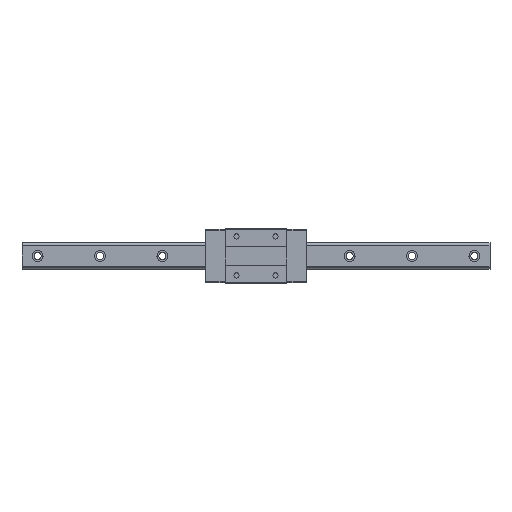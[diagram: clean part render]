
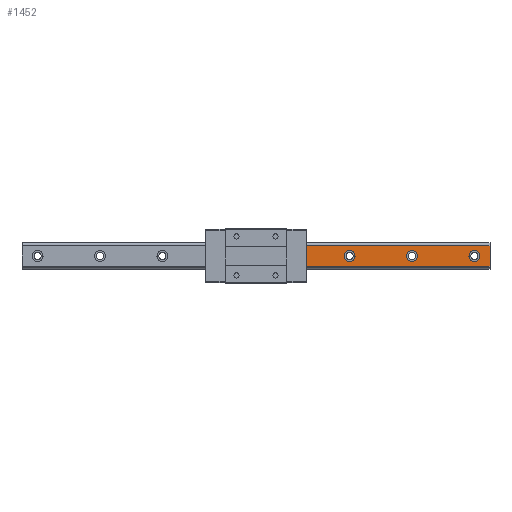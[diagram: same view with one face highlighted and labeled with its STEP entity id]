
A CAD part, top view. The second image highlights one B-rep face of the part: STEP entity #1452.
In plain terms, the highlighted planar face has unit normal (0, 0, 1).
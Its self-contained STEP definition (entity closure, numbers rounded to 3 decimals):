
#29 = CARTESIAN_POINT ( 'NONE',  ( 300., 13.6, 26. ) ) ;
#66 = VERTEX_POINT ( 'NONE', #2075 ) ;
#96 = LINE ( 'NONE', #1850, #302 ) ;
#133 = AXIS2_PLACEMENT_3D ( 'NONE', #1473, #4798, #3149 ) ;
#302 = VECTOR ( 'NONE', #3903, 1000. ) ;
#367 = DIRECTION ( 'NONE',  ( -1., 0., 0. ) ) ;
#369 = CIRCLE ( 'NONE', #3812, 7. ) ;
#420 = DIRECTION ( 'NONE',  ( -1., 0., 0. ) ) ;
#459 = DIRECTION ( 'NONE',  ( 0., 0., -1. ) ) ;
#477 = DIRECTION ( 'NONE',  ( 0., 0., -1. ) ) ;
#585 = CARTESIAN_POINT ( 'NONE',  ( 64.75, -13.408, 26. ) ) ;
#658 = VECTOR ( 'NONE', #1546, 1000. ) ;
#695 = ORIENTED_EDGE ( 'NONE', *, *, #3386, .F. ) ;
#767 = VERTEX_POINT ( 'NONE', #5246 ) ;
#770 = LINE ( 'NONE', #4062, #1510 ) ;
#784 = AXIS2_PLACEMENT_3D ( 'NONE', #3497, #4334, #3066 ) ;
#844 = ORIENTED_EDGE ( 'NONE', *, *, #1554, .F. ) ;
#893 = DIRECTION ( 'NONE',  ( 0., -1., 0. ) ) ;
#903 = VERTEX_POINT ( 'NONE', #2809 ) ;
#1110 = EDGE_CURVE ( 'NONE', #903, #5324, #2802, .T. ) ;
#1184 = EDGE_CURVE ( 'NONE', #2336, #1925, #770, .T. ) ;
#1452 = ADVANCED_FACE ( 'NONE', ( #3417, #4202, #2529, #4179 ), #3771, .F. ) ;
#1473 = CARTESIAN_POINT ( 'NONE',  ( 280., 0., 26. ) ) ;
#1510 = VECTOR ( 'NONE', #367, 1000. ) ;
#1536 = VERTEX_POINT ( 'NONE', #1980 ) ;
#1546 = DIRECTION ( 'NONE',  ( 0., 1., 0. ) ) ;
#1548 = CIRCLE ( 'NONE', #3619, 7. ) ;
#1551 = VERTEX_POINT ( 'NONE', #4385 ) ;
#1554 = EDGE_CURVE ( 'NONE', #3022, #1925, #2358, .T. ) ;
#1820 = ORIENTED_EDGE ( 'NONE', *, *, #3470, .T. ) ;
#1850 = CARTESIAN_POINT ( 'NONE',  ( 300., -13.408, 26. ) ) ;
#1925 = VERTEX_POINT ( 'NONE', #3240 ) ;
#1980 = CARTESIAN_POINT ( 'NONE',  ( 113., 0., 26. ) ) ;
#2006 = ORIENTED_EDGE ( 'NONE', *, *, #3122, .T. ) ;
#2075 = CARTESIAN_POINT ( 'NONE',  ( 207., 0., 26. ) ) ;
#2079 = CARTESIAN_POINT ( 'NONE',  ( 280., 0., 26. ) ) ;
#2087 = EDGE_CURVE ( 'NONE', #5324, #903, #369, .T. ) ;
#2128 = DIRECTION ( 'NONE',  ( 0., -1., 0. ) ) ;
#2271 = CARTESIAN_POINT ( 'NONE',  ( 120., 0., 26. ) ) ;
#2336 = VERTEX_POINT ( 'NONE', #4832 ) ;
#2358 = LINE ( 'NONE', #2838, #658 ) ;
#2474 = CARTESIAN_POINT ( 'NONE',  ( 200., 0., 26. ) ) ;
#2529 = FACE_BOUND ( 'NONE', #2983, .T. ) ;
#2676 = DIRECTION ( 'NONE',  ( -1., 0., 0. ) ) ;
#2802 = CIRCLE ( 'NONE', #133, 7. ) ;
#2809 = CARTESIAN_POINT ( 'NONE',  ( 287., 0., 26. ) ) ;
#2838 = CARTESIAN_POINT ( 'NONE',  ( 64.75, -13.408, 26. ) ) ;
#2924 = VECTOR ( 'NONE', #893, 1000. ) ;
#2967 = LINE ( 'NONE', #29, #2924 ) ;
#2983 = EDGE_LOOP ( 'NONE', ( #1820, #4307 ) ) ;
#3010 = CIRCLE ( 'NONE', #784, 7. ) ;
#3022 = VERTEX_POINT ( 'NONE', #585 ) ;
#3066 = DIRECTION ( 'NONE',  ( -1., 0., 0. ) ) ;
#3122 = EDGE_CURVE ( 'NONE', #767, #66, #3010, .T. ) ;
#3149 = DIRECTION ( 'NONE',  ( -1., 0., 0. ) ) ;
#3222 = ORIENTED_EDGE ( 'NONE', *, *, #4252, .T. ) ;
#3240 = CARTESIAN_POINT ( 'NONE',  ( 64.75, 13.408, 26. ) ) ;
#3330 = ORIENTED_EDGE ( 'NONE', *, *, #4430, .T. ) ;
#3356 = AXIS2_PLACEMENT_3D ( 'NONE', #4162, #459, #2676 ) ;
#3386 = EDGE_CURVE ( 'NONE', #2336, #1551, #2967, .T. ) ;
#3417 = FACE_BOUND ( 'NONE', #5202, .T. ) ;
#3428 = EDGE_CURVE ( 'NONE', #1536, #5327, #5178, .T. ) ;
#3470 = EDGE_CURVE ( 'NONE', #5327, #1536, #1548, .T. ) ;
#3497 = CARTESIAN_POINT ( 'NONE',  ( 200., 0., 26. ) ) ;
#3590 = AXIS2_PLACEMENT_3D ( 'NONE', #3951, #477, #2128 ) ;
#3619 = AXIS2_PLACEMENT_3D ( 'NONE', #2271, #5056, #3804 ) ;
#3698 = ORIENTED_EDGE ( 'NONE', *, *, #2087, .T. ) ;
#3727 = DIRECTION ( 'NONE',  ( -1., 0., 0. ) ) ;
#3771 = PLANE ( 'NONE',  #3590 ) ;
#3804 = DIRECTION ( 'NONE',  ( -1., 0., 0. ) ) ;
#3812 = AXIS2_PLACEMENT_3D ( 'NONE', #2079, #4975, #3727 ) ;
#3903 = DIRECTION ( 'NONE',  ( 1., 0., 0. ) ) ;
#3951 = CARTESIAN_POINT ( 'NONE',  ( 300., 0., 26. ) ) ;
#4062 = CARTESIAN_POINT ( 'NONE',  ( 300., 13.408, 26. ) ) ;
#4124 = DIRECTION ( 'NONE',  ( 0., 0., -1. ) ) ;
#4162 = CARTESIAN_POINT ( 'NONE',  ( 120., 0., 26. ) ) ;
#4179 = FACE_OUTER_BOUND ( 'NONE', #5145, .T. ) ;
#4202 = FACE_BOUND ( 'NONE', #5304, .T. ) ;
#4208 = ORIENTED_EDGE ( 'NONE', *, *, #1110, .T. ) ;
#4252 = EDGE_CURVE ( 'NONE', #66, #767, #5213, .T. ) ;
#4292 = CARTESIAN_POINT ( 'NONE',  ( 127., 0., 26. ) ) ;
#4307 = ORIENTED_EDGE ( 'NONE', *, *, #3428, .T. ) ;
#4334 = DIRECTION ( 'NONE',  ( 0., 0., -1. ) ) ;
#4352 = AXIS2_PLACEMENT_3D ( 'NONE', #2474, #4124, #420 ) ;
#4385 = CARTESIAN_POINT ( 'NONE',  ( 300., -13.408, 26. ) ) ;
#4430 = EDGE_CURVE ( 'NONE', #3022, #1551, #96, .T. ) ;
#4798 = DIRECTION ( 'NONE',  ( 0., 0., -1. ) ) ;
#4832 = CARTESIAN_POINT ( 'NONE',  ( 300., 13.408, 26. ) ) ;
#4975 = DIRECTION ( 'NONE',  ( 0., 0., -1. ) ) ;
#5056 = DIRECTION ( 'NONE',  ( 0., 0., -1. ) ) ;
#5104 = CARTESIAN_POINT ( 'NONE',  ( 273., 0., 26. ) ) ;
#5145 = EDGE_LOOP ( 'NONE', ( #5248, #844, #3330, #695 ) ) ;
#5178 = CIRCLE ( 'NONE', #3356, 7. ) ;
#5202 = EDGE_LOOP ( 'NONE', ( #4208, #3698 ) ) ;
#5213 = CIRCLE ( 'NONE', #4352, 7. ) ;
#5246 = CARTESIAN_POINT ( 'NONE',  ( 193., 0., 26. ) ) ;
#5248 = ORIENTED_EDGE ( 'NONE', *, *, #1184, .T. ) ;
#5304 = EDGE_LOOP ( 'NONE', ( #3222, #2006 ) ) ;
#5324 = VERTEX_POINT ( 'NONE', #5104 ) ;
#5327 = VERTEX_POINT ( 'NONE', #4292 ) ;
